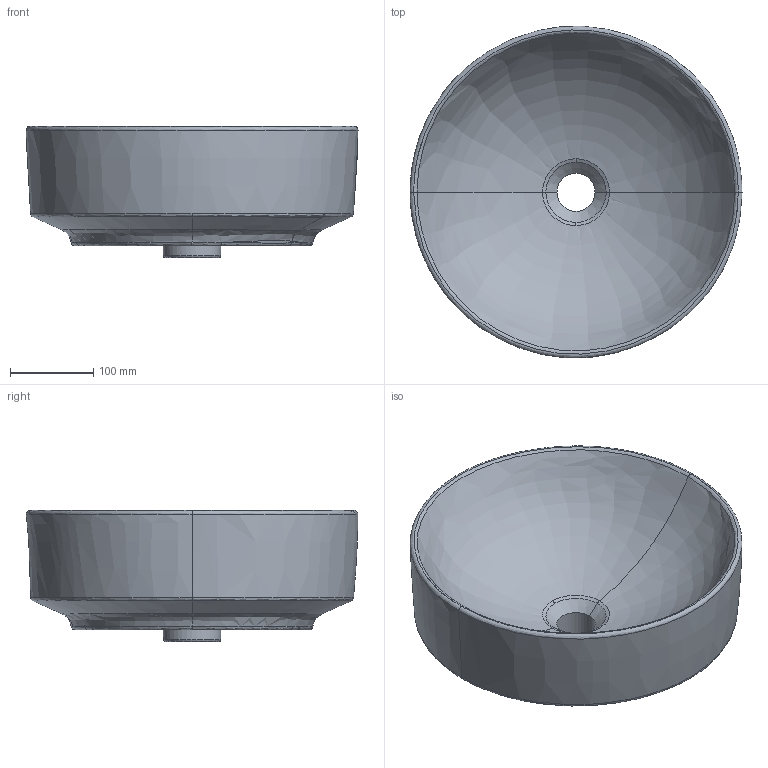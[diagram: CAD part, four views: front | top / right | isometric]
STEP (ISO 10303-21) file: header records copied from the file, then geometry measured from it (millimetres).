
FILE_DESCRIPTION(/* description */ (''),/* implementation_level */ '2;1');
FILE_NAME(/* name */ 'C:\Planerdaten\Export PLA\500.768.01.1\stp\500768.stp',/* time_stamp */ '2020-02-27T11:07:42+01:00',/* author */ ('JANAN'),/* organization */ (''),/* preprocessor_version */ 'ST-DEVELOPER v16.13',/* originating_system */ 'Autodesk Inventor 2018',/* authorisation */ '');
FILE_SCHEMA (('AUTOMOTIVE_DESIGN { 1 0 10303 214 3 1 1 }'));
Length unit declared in the file: millimetre
Products named in the file (1): AWT Ge+VaF rnd D40 o/ ÜLF
Bounding box: 400 x 399.35 x 158 mm (x, y, z)
Volume: 8648721.9 mm3; surface area: 437043.5 mm2
Topology: 1 solids, 1 shells, 77 faces, 218 edges, 139 vertices
Faces by surface type: bspline 47, plane 15, cone 9, torus 5, cylinder 1
Full cylindrical faces by diameter (mm): 46 x1
Entity records: 23978 total; most frequent: CARTESIAN_POINT 22203, ORIENTED_EDGE 390, DIRECTION 253, EDGE_CURVE 195, VERTEX_POINT 133, AXIS2_PLACEMENT_3D 105, EDGE_LOOP 92, B_SPLINE_CURVE_WITH_KNOTS 78
